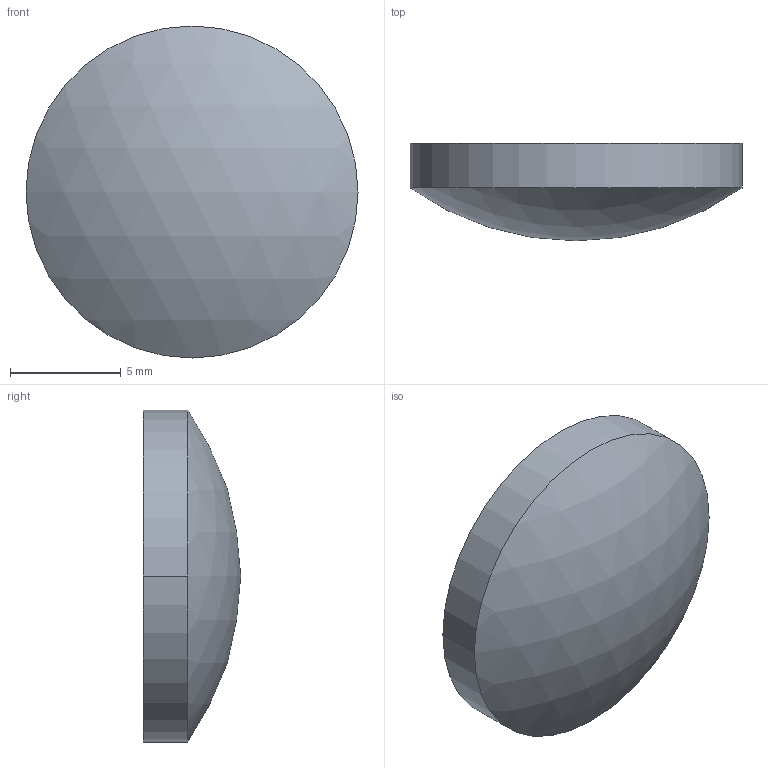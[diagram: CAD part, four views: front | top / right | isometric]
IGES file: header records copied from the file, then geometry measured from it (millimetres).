
Global section: file name: No Iges File Name specified; native system: AutoDesk Inventor R12.0; preprocessor: AutoDesk Inventor Iges Exporter R12.0; author: No Author specified; organization: No Organization specified; date: 20090512.101655; units: millimetre
Bounding box: 15 x 4.4 x 15 mm (x, y, z)
Volume: 573.8 mm3; surface area: 466.2 mm2
Topology: 1 solids, 1 shells, 4 faces, 6 edges, 4 vertices
Faces by surface type: cylinder 2, sphere 1, plane 1
